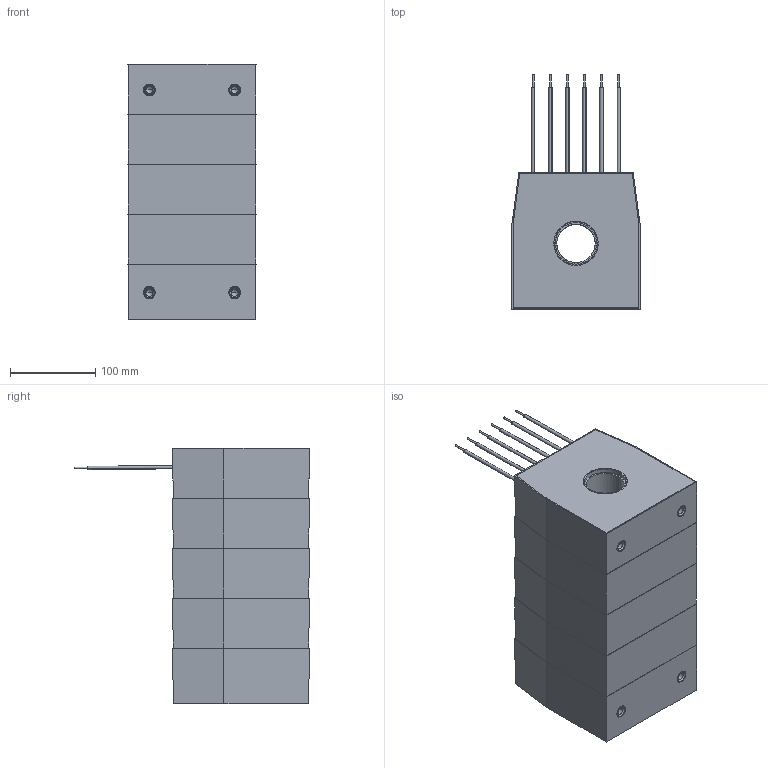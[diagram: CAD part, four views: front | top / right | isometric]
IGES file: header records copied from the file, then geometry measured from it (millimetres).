
Start section: IGES file generated from Kompas f.0 for Windows drawing by the IGES translator from Ascon Ltd., translator version IGESOUT-5.1.
Global section: file name: C:\Ðàáîòà\Èçâåùåíèÿ 5\ÒØÏ-ÍÒÇ-0.66-61...,71...,81... (ñáîðíûé)\Âåðñèÿ îò 21.05.24\3D ìîäåëü\ÒØÏ-ÍÒÇ-0,66-65Ñ\ÒØÏ-ÍÒÇ-0,66-65Ñ (45 ìì, 5-é ãàáàðèò).igs; native system: Kompas( 32 bit ) for Windows; preprocessor: 1.0; author: 123; organization: Microsoft; date: -17750727:092831; units: millimetre
Bounding box: 150 x 274.82 x 299 mm (x, y, z)
Volume: 915928 mm3; surface area: 615616.7 mm2
Topology: 21 solids, 21 shells, 466 faces, 1102 edges, 708 vertices
Faces by surface type: bspline 236, revolution 230
